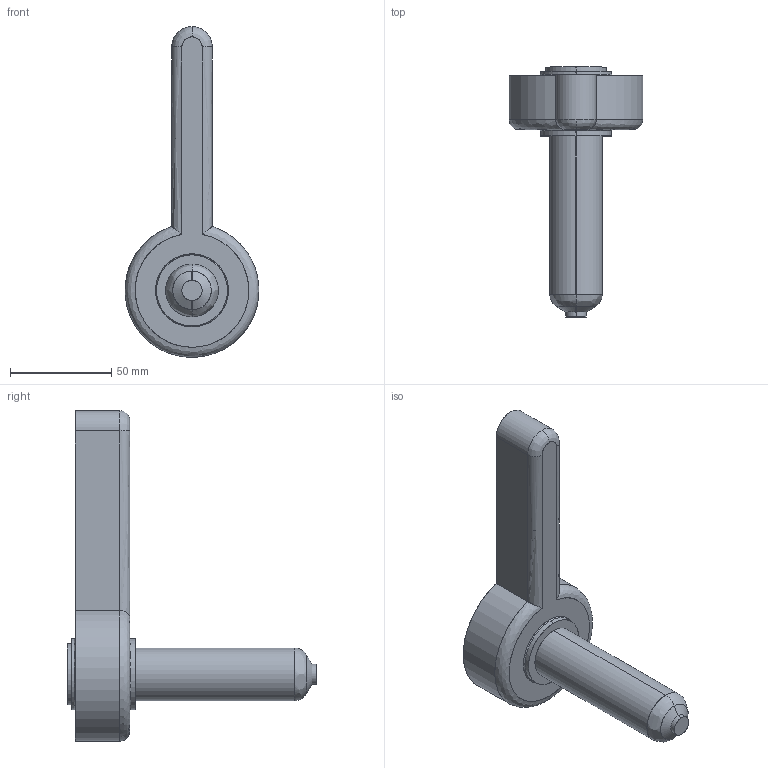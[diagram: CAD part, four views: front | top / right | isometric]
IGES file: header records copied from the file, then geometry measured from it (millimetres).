
Start section: SolidWorks IGES file using analytic representation for surfaces
Global section: file name: C:\Users\luca.EMPAD\Desktop\TEM\Sede UGBE3502-S-A C-89 L-121 P-0.IGS; native system: SolidWorks 2012; preprocessor: SolidWorks 2012; author: luca; date: 120330.142745; units: millimetre
Bounding box: 65.98 x 123.23 x 163 mm (x, y, z)
Surface area: 27937.4 mm2 (no closed solid volume)
Topology: 0 solids, 0 shells, 34 faces, 754 edges, 754 vertices
Faces by surface type: revolution 21, bspline 13
